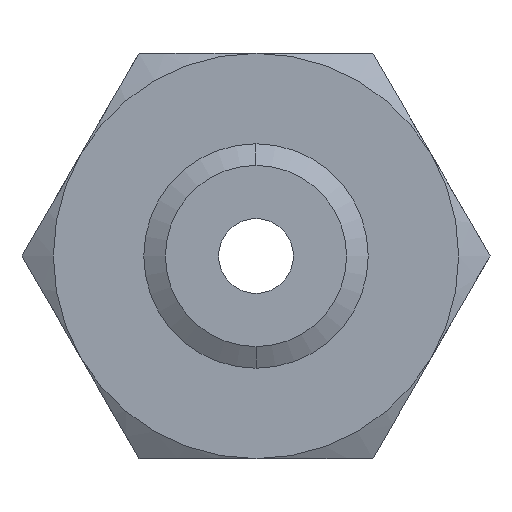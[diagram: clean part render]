
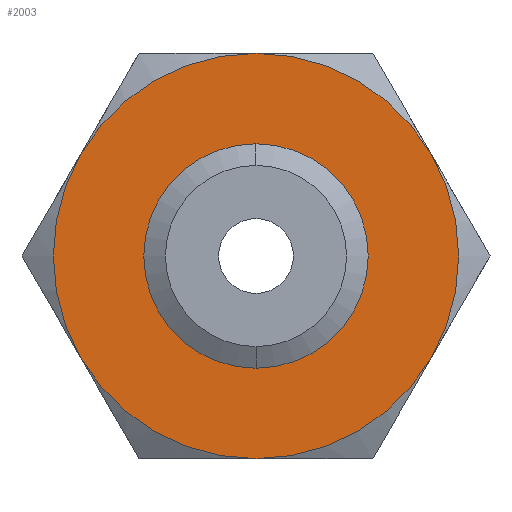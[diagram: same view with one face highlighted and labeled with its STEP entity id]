
A CAD part, front view. The second image highlights one B-rep face of the part: STEP entity #2003.
In plain terms, the highlighted planar face has unit normal (0, -1, 0).
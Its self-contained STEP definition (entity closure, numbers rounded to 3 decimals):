
#1209 = DIRECTION ( 'NONE',  ( 0., 0., 1. ) ) ;
#1210 = DIRECTION ( 'NONE',  ( 0., 1., 0. ) ) ;
#1211 = CARTESIAN_POINT ( 'NONE',  ( 0., 0., 0. ) ) ;
#1212 = AXIS2_PLACEMENT_3D ( 'NONE', #1211, #1210, #1209 ) ;
#1213 = CIRCLE ( 'NONE', #1212, 32.5 ) ;
#1255 = DIRECTION ( 'NONE',  ( 0., 0., 1. ) ) ;
#1256 = DIRECTION ( 'NONE',  ( 0., 1., 0. ) ) ;
#1257 = CARTESIAN_POINT ( 'NONE',  ( 0., 0., 0. ) ) ;
#1258 = AXIS2_PLACEMENT_3D ( 'NONE', #1257, #1256, #1255 ) ;
#1259 = CIRCLE ( 'NONE', #1258, 32.5 ) ;
#1261 = DIRECTION ( 'NONE',  ( 0., 0., -1. ) ) ;
#1262 = DIRECTION ( 'NONE',  ( 0., -1., 0. ) ) ;
#1263 = AXIS2_PLACEMENT_3D ( 'NONE', #1267, #1262, #1261 ) ;
#1264 = CIRCLE ( 'NONE', #1263, 14.536 ) ;
#1267 = CARTESIAN_POINT ( 'NONE',  ( 0., 0., 0. ) ) ;
#1341 = CARTESIAN_POINT ( 'NONE',  ( 28.146, 0., -16.25 ) ) ;
#1477 = DIRECTION ( 'NONE',  ( 0., 0., 1. ) ) ;
#1478 = DIRECTION ( 'NONE',  ( 0., 1., 0. ) ) ;
#1479 = CARTESIAN_POINT ( 'NONE',  ( 0., 0., 0. ) ) ;
#1480 = AXIS2_PLACEMENT_3D ( 'NONE', #1479, #1478, #1477 ) ;
#1481 = CIRCLE ( 'NONE', #1480, 32.5 ) ;
#1483 = CARTESIAN_POINT ( 'NONE',  ( 0., 0., 32.5 ) ) ;
#1489 = DIRECTION ( 'NONE',  ( 0., 0., 1. ) ) ;
#1490 = DIRECTION ( 'NONE',  ( 0., 1., 0. ) ) ;
#1492 = CARTESIAN_POINT ( 'NONE',  ( 18.764, 0., -32.5 ) ) ;
#1493 = AXIS2_PLACEMENT_3D ( 'NONE', #1492, #1490, #1489 ) ;
#1494 = PLANE ( 'NONE',  #1493 ) ;
#1495 = FACE_BOUND ( 'NONE', #1921, .T. ) ;
#1496 = FACE_OUTER_BOUND ( 'NONE', #2011, .T. ) ;
#1544 = CARTESIAN_POINT ( 'NONE',  ( -28.146, 0., -16.25 ) ) ;
#1548 = CARTESIAN_POINT ( 'NONE',  ( 28.146, 0., 16.25 ) ) ;
#1553 = DIRECTION ( 'NONE',  ( 0., 0., 1. ) ) ;
#1554 = DIRECTION ( 'NONE',  ( 0., 1., 0. ) ) ;
#1555 = CARTESIAN_POINT ( 'NONE',  ( 0., 0., 0. ) ) ;
#1556 = AXIS2_PLACEMENT_3D ( 'NONE', #1555, #1554, #1553 ) ;
#1557 = CIRCLE ( 'NONE', #1556, 32.5 ) ;
#1558 = CARTESIAN_POINT ( 'NONE',  ( -28.146, 0., 16.25 ) ) ;
#1581 = CARTESIAN_POINT ( 'NONE',  ( 0., 0., 14.536 ) ) ;
#1593 = CARTESIAN_POINT ( 'NONE',  ( 0., 0., -14.536 ) ) ;
#1594 = DIRECTION ( 'NONE',  ( 0., 0., 1. ) ) ;
#1595 = DIRECTION ( 'NONE',  ( 0., 1., 0. ) ) ;
#1596 = CARTESIAN_POINT ( 'NONE',  ( 0., 0., 0. ) ) ;
#1597 = AXIS2_PLACEMENT_3D ( 'NONE', #1596, #1595, #1594 ) ;
#1598 = CIRCLE ( 'NONE', #1597, 32.5 ) ;
#1599 = CARTESIAN_POINT ( 'NONE',  ( 0., 0., -32.5 ) ) ;
#1600 = DIRECTION ( 'NONE',  ( 0., 0., 1. ) ) ;
#1601 = DIRECTION ( 'NONE',  ( 0., 1., 0. ) ) ;
#1602 = CARTESIAN_POINT ( 'NONE',  ( 0., 0., 0. ) ) ;
#1603 = AXIS2_PLACEMENT_3D ( 'NONE', #1602, #1601, #1600 ) ;
#1604 = CIRCLE ( 'NONE', #1603, 32.5 ) ;
#1625 = DIRECTION ( 'NONE',  ( 0., 0., -1. ) ) ;
#1626 = DIRECTION ( 'NONE',  ( 0., -1., 0. ) ) ;
#1627 = CARTESIAN_POINT ( 'NONE',  ( 0., 0., 0. ) ) ;
#1628 = AXIS2_PLACEMENT_3D ( 'NONE', #1627, #1626, #1625 ) ;
#1629 = CIRCLE ( 'NONE', #1628, 14.536 ) ;
#1885 = ORIENTED_EDGE ( 'NONE', *, *, #2073, .F. ) ;
#1886 = EDGE_CURVE ( 'NONE', #2040, #1941, #1213, .T. ) ;
#1890 = ORIENTED_EDGE ( 'NONE', *, *, #1886, .F. ) ;
#1892 = EDGE_CURVE ( 'NONE', #2066, #2052, #1264, .T. ) ;
#1893 = EDGE_CURVE ( 'NONE', #1941, #2047, #1259, .T. ) ;
#1921 = EDGE_LOOP ( 'NONE', ( #1885, #1992 ) ) ;
#1941 = VERTEX_POINT ( 'NONE', #1341 ) ;
#1992 = ORIENTED_EDGE ( 'NONE', *, *, #1892, .F. ) ;
#2003 = ADVANCED_FACE ( 'NONE', ( #1496, #1495 ), #1494, .F. ) ;
#2008 = ORIENTED_EDGE ( 'NONE', *, *, #2014, .F. ) ;
#2011 = EDGE_LOOP ( 'NONE', ( #2008, #2037, #2048, #2043, #2049, #1890 ) ) ;
#2013 = VERTEX_POINT ( 'NONE', #1483 ) ;
#2014 = EDGE_CURVE ( 'NONE', #2013, #2040, #1481, .T. ) ;
#2036 = VERTEX_POINT ( 'NONE', #1558 ) ;
#2037 = ORIENTED_EDGE ( 'NONE', *, *, #2038, .F. ) ;
#2038 = EDGE_CURVE ( 'NONE', #2036, #2013, #1557, .T. ) ;
#2040 = VERTEX_POINT ( 'NONE', #1548 ) ;
#2043 = ORIENTED_EDGE ( 'NONE', *, *, #2045, .F. ) ;
#2044 = VERTEX_POINT ( 'NONE', #1544 ) ;
#2045 = EDGE_CURVE ( 'NONE', #2047, #2044, #1604, .T. ) ;
#2046 = EDGE_CURVE ( 'NONE', #2044, #2036, #1598, .T. ) ;
#2047 = VERTEX_POINT ( 'NONE', #1599 ) ;
#2048 = ORIENTED_EDGE ( 'NONE', *, *, #2046, .F. ) ;
#2049 = ORIENTED_EDGE ( 'NONE', *, *, #1893, .F. ) ;
#2052 = VERTEX_POINT ( 'NONE', #1593 ) ;
#2066 = VERTEX_POINT ( 'NONE', #1581 ) ;
#2073 = EDGE_CURVE ( 'NONE', #2052, #2066, #1629, .T. ) ;
